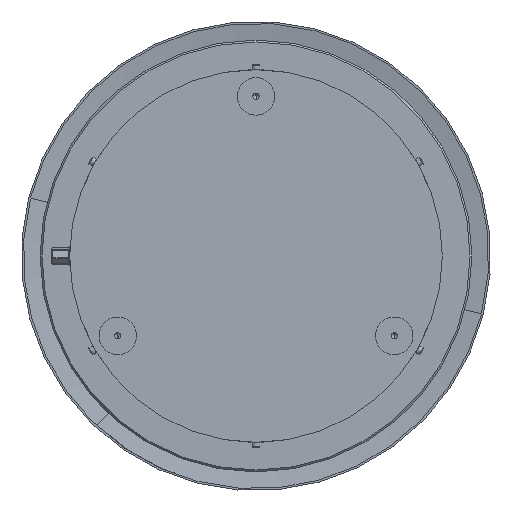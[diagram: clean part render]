
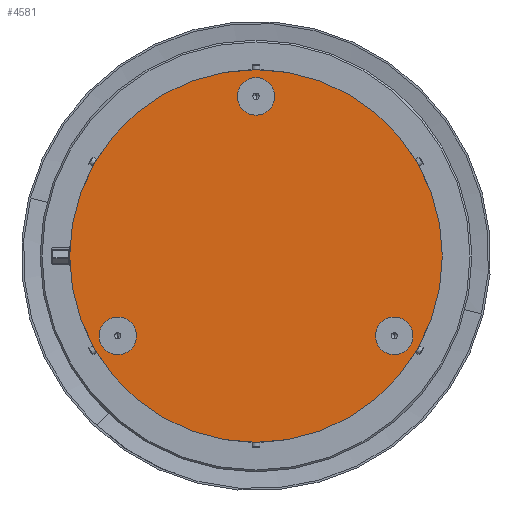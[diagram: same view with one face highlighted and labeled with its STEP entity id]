
A CAD part, front view. The second image highlights one B-rep face of the part: STEP entity #4581.
In plain terms, the highlighted planar face has unit normal (0, -1, 0).
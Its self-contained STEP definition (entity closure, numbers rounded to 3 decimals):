
#86 = VERTEX_POINT ( 'NONE', #10560 ) ;
#269 = CIRCLE ( 'NONE', #4900, 20. ) ;
#313 = CIRCLE ( 'NONE', #8387, 198.5 ) ;
#449 = EDGE_LOOP ( 'NONE', ( #4092, #642 ) ) ;
#637 = PLANE ( 'NONE',  #9071 ) ;
#642 = ORIENTED_EDGE ( 'NONE', *, *, #2642, .F. ) ;
#717 = DIRECTION ( 'NONE',  ( 0., 0., 1. ) ) ;
#1094 = AXIS2_PLACEMENT_3D ( 'NONE', #7173, #3844, #3157 ) ;
#1149 = DIRECTION ( 'NONE',  ( 0., 0., 1. ) ) ;
#1192 = CARTESIAN_POINT ( 'NONE',  ( -147.224, 0., -85. ) ) ;
#1301 = ORIENTED_EDGE ( 'NONE', *, *, #5154, .T. ) ;
#1606 = DIRECTION ( 'NONE',  ( 0., -1., 0. ) ) ;
#2042 = VERTEX_POINT ( 'NONE', #5575 ) ;
#2118 = AXIS2_PLACEMENT_3D ( 'NONE', #4901, #4932, #8208 ) ;
#2196 = AXIS2_PLACEMENT_3D ( 'NONE', #3695, #9389, #5986 ) ;
#2380 = CIRCLE ( 'NONE', #1094, 20. ) ;
#2426 = AXIS2_PLACEMENT_3D ( 'NONE', #4834, #10547, #717 ) ;
#2642 = EDGE_CURVE ( 'NONE', #5737, #86, #5904, .T. ) ;
#2674 = CARTESIAN_POINT ( 'NONE',  ( -147.224, 0., -105. ) ) ;
#2898 = VERTEX_POINT ( 'NONE', #2674 ) ;
#2902 = EDGE_LOOP ( 'NONE', ( #9236, #5341 ) ) ;
#3157 = DIRECTION ( 'NONE',  ( 0., 0., 1. ) ) ;
#3162 = CARTESIAN_POINT ( 'NONE',  ( 0., 0., 190. ) ) ;
#3183 = CARTESIAN_POINT ( 'NONE',  ( -147.224, 0., -85. ) ) ;
#3416 = CARTESIAN_POINT ( 'NONE',  ( -147.224, 0., -65. ) ) ;
#3501 = AXIS2_PLACEMENT_3D ( 'NONE', #3183, #1606, #3973 ) ;
#3639 = ORIENTED_EDGE ( 'NONE', *, *, #4391, .T. ) ;
#3695 = CARTESIAN_POINT ( 'NONE',  ( 0., 0., 170. ) ) ;
#3795 = CARTESIAN_POINT ( 'NONE',  ( 147.224, 0., -105. ) ) ;
#3844 = DIRECTION ( 'NONE',  ( 0., -1., 0. ) ) ;
#3947 = DIRECTION ( 'NONE',  ( 0., 1., 0. ) ) ;
#3962 = VERTEX_POINT ( 'NONE', #8613 ) ;
#3973 = DIRECTION ( 'NONE',  ( 0., 0., 1. ) ) ;
#4011 = FACE_OUTER_BOUND ( 'NONE', #4523, .T. ) ;
#4092 = ORIENTED_EDGE ( 'NONE', *, *, #8496, .F. ) ;
#4105 = CIRCLE ( 'NONE', #2196, 20. ) ;
#4348 = CIRCLE ( 'NONE', #3501, 20. ) ;
#4391 = EDGE_CURVE ( 'NONE', #2042, #7663, #313, .T. ) ;
#4420 = AXIS2_PLACEMENT_3D ( 'NONE', #5404, #5436, #9454 ) ;
#4523 = EDGE_LOOP ( 'NONE', ( #3639, #1301 ) ) ;
#4581 = ADVANCED_FACE ( 'NONE', ( #6686, #7877, #5293, #4011 ), #637, .F. ) ;
#4609 = ORIENTED_EDGE ( 'NONE', *, *, #6024, .F. ) ;
#4716 = EDGE_CURVE ( 'NONE', #7077, #3962, #9741, .T. ) ;
#4834 = CARTESIAN_POINT ( 'NONE',  ( 147.224, 0., -85. ) ) ;
#4894 = VERTEX_POINT ( 'NONE', #3416 ) ;
#4900 = AXIS2_PLACEMENT_3D ( 'NONE', #1192, #6017, #1149 ) ;
#4901 = CARTESIAN_POINT ( 'NONE',  ( 0., 0., 170. ) ) ;
#4932 = DIRECTION ( 'NONE',  ( 0., -1., 0. ) ) ;
#5154 = EDGE_CURVE ( 'NONE', #7663, #2042, #7323, .T. ) ;
#5293 = FACE_BOUND ( 'NONE', #2902, .T. ) ;
#5341 = ORIENTED_EDGE ( 'NONE', *, *, #5664, .F. ) ;
#5404 = CARTESIAN_POINT ( 'NONE',  ( 0., 0., 0. ) ) ;
#5436 = DIRECTION ( 'NONE',  ( 0., -1., 0. ) ) ;
#5575 = CARTESIAN_POINT ( 'NONE',  ( 0., 0., -198.5 ) ) ;
#5664 = EDGE_CURVE ( 'NONE', #3962, #7077, #4105, .T. ) ;
#5737 = VERTEX_POINT ( 'NONE', #3795 ) ;
#5904 = CIRCLE ( 'NONE', #2426, 20. ) ;
#5986 = DIRECTION ( 'NONE',  ( 0., 0., 1. ) ) ;
#6017 = DIRECTION ( 'NONE',  ( 0., -1., 0. ) ) ;
#6024 = EDGE_CURVE ( 'NONE', #2898, #4894, #269, .T. ) ;
#6259 = DIRECTION ( 'NONE',  ( 0., 0., 1. ) ) ;
#6505 = ORIENTED_EDGE ( 'NONE', *, *, #10316, .F. ) ;
#6686 = FACE_BOUND ( 'NONE', #449, .T. ) ;
#6875 = DIRECTION ( 'NONE',  ( 0., 0., -1. ) ) ;
#7077 = VERTEX_POINT ( 'NONE', #3162 ) ;
#7173 = CARTESIAN_POINT ( 'NONE',  ( 147.224, 0., -85. ) ) ;
#7248 = CARTESIAN_POINT ( 'NONE',  ( 0., 0., 0. ) ) ;
#7323 = CIRCLE ( 'NONE', #4420, 198.5 ) ;
#7599 = EDGE_LOOP ( 'NONE', ( #6505, #4609 ) ) ;
#7663 = VERTEX_POINT ( 'NONE', #9264 ) ;
#7877 = FACE_BOUND ( 'NONE', #7599, .T. ) ;
#8208 = DIRECTION ( 'NONE',  ( 0., 0., 1. ) ) ;
#8387 = AXIS2_PLACEMENT_3D ( 'NONE', #10093, #8388, #6875 ) ;
#8388 = DIRECTION ( 'NONE',  ( 0., -1., 0. ) ) ;
#8496 = EDGE_CURVE ( 'NONE', #86, #5737, #2380, .T. ) ;
#8613 = CARTESIAN_POINT ( 'NONE',  ( 0., 0., 150. ) ) ;
#9071 = AXIS2_PLACEMENT_3D ( 'NONE', #7248, #3947, #6259 ) ;
#9236 = ORIENTED_EDGE ( 'NONE', *, *, #4716, .F. ) ;
#9264 = CARTESIAN_POINT ( 'NONE',  ( 0., 0., 198.5 ) ) ;
#9389 = DIRECTION ( 'NONE',  ( 0., -1., 0. ) ) ;
#9454 = DIRECTION ( 'NONE',  ( 0., 0., -1. ) ) ;
#9741 = CIRCLE ( 'NONE', #2118, 20. ) ;
#10093 = CARTESIAN_POINT ( 'NONE',  ( 0., 0., 0. ) ) ;
#10316 = EDGE_CURVE ( 'NONE', #4894, #2898, #4348, .T. ) ;
#10547 = DIRECTION ( 'NONE',  ( 0., -1., 0. ) ) ;
#10560 = CARTESIAN_POINT ( 'NONE',  ( 147.224, 0., -65. ) ) ;
